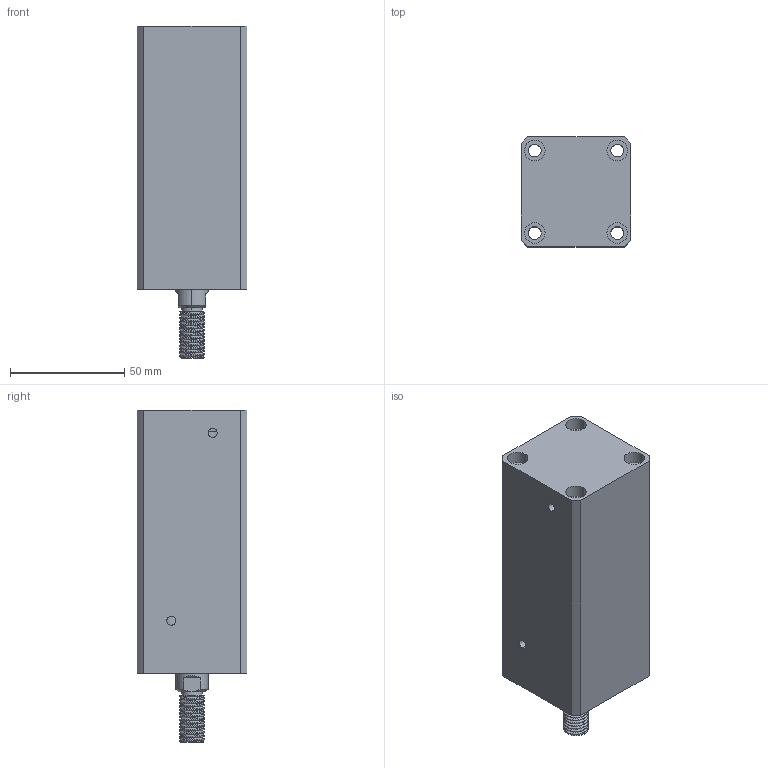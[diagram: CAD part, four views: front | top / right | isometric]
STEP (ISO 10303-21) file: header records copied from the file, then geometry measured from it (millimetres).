
FILE_DESCRIPTION (( 'STEP AP214' ), '1' );
FILE_NAME ('chtb-sdma25x70w_asm.STEP', '2018-05-22T07:39:05', ( 'Windows' ), ( 'Microsoft' ), 'SwSTEP 2.0', 'SolidWorks 2015', '' );
FILE_SCHEMA (( 'AUTOMOTIVE_DESIGN' ));
Length unit declared in the file: millimetre
Products named in the file (4): CHTB-SDMA25X70WHSG; CHTB-SDMA25X70NBT; CHTB-25QG; chtb-sdma25x70w_asm
Assembly tree (3 placements, depth 2):
  chtb-sdma25x70w_asm
    CHTB-25QG
    CHTB-SDMA25X70NBT
    CHTB-SDMA25X70WHSG
Bounding box: 48 x 48 x 145 mm (x, y, z)
Volume: 227550.8 mm3; surface area: 57453.5 mm2
Topology: 3 solids, 3 shells, 177 faces, 479 edges, 325 vertices
Faces by surface type: cylinder 117, plane 38, bspline 12, cone 10
Entity records: 10676 total; most frequent: CARTESIAN_POINT 6329, ORIENTED_EDGE 950, DIRECTION 772, EDGE_CURVE 475, VERTEX_POINT 325, AXIS2_PLACEMENT_3D 312, EDGE_LOOP 216, FACE_OUTER_BOUND 177
